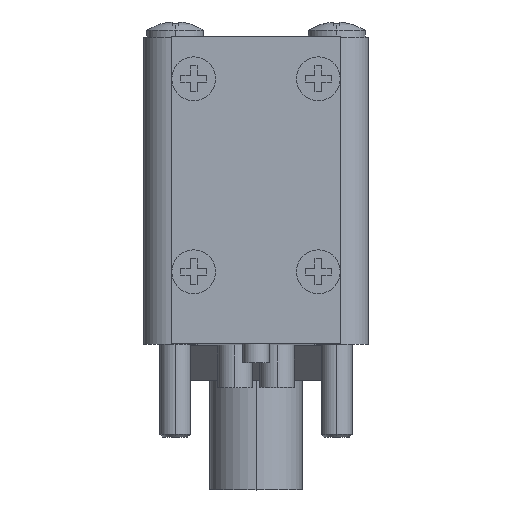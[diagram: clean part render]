
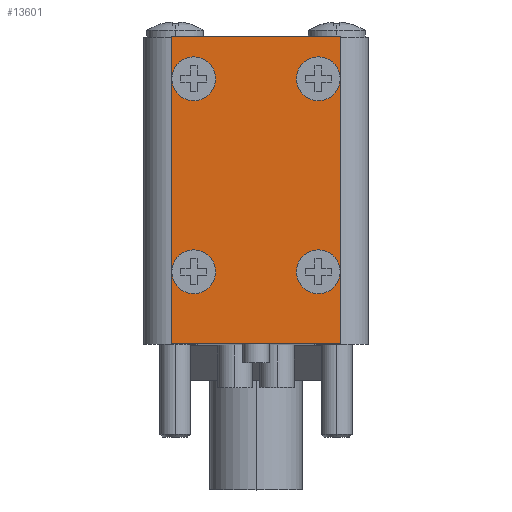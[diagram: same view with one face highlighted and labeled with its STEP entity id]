
A CAD part, top view. The second image highlights one B-rep face of the part: STEP entity #13601.
In plain terms, the highlighted planar face has unit normal (0, 0, 1).
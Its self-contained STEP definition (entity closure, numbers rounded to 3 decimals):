
#4471=DIRECTION('',(1.,0.,0.));
#4472=VECTOR('',#4471,19.3);
#4473=CARTESIAN_POINT('',(-9.65,17.,60.55));
#4474=LINE('',#4473,#4472);
#4478=DIRECTION('',(0.,-1.,0.));
#4479=VECTOR('',#4478,35.);
#4480=CARTESIAN_POINT('',(-9.65,17.,60.55));
#4481=LINE('',#4480,#4479);
#4485=DIRECTION('',(0.,1.,0.));
#4486=VECTOR('',#4485,35.);
#4487=CARTESIAN_POINT('',(9.65,-18.,60.55));
#4488=LINE('',#4487,#4486);
#4492=DIRECTION('',(1.,0.,0.));
#4493=VECTOR('',#4492,19.3);
#4494=CARTESIAN_POINT('',(-9.65,-18.,60.55));
#4495=LINE('',#4494,#4493);
#4499=CARTESIAN_POINT('',(-7.1,12.15,60.55));
#4500=DIRECTION('',(0.,0.,1.));
#4501=DIRECTION('',(1.,0.,0.));
#4502=AXIS2_PLACEMENT_3D('',#4499,#4500,#4501);
#4507=CARTESIAN_POINT('',(-7.1,12.15,60.55));
#4508=DIRECTION('',(0.,0.,1.));
#4509=DIRECTION('',(-1.,0.,0.));
#4510=AXIS2_PLACEMENT_3D('',#4507,#4508,#4509);
#4515=CARTESIAN_POINT('',(7.1,12.15,60.55));
#4516=DIRECTION('',(0.,0.,1.));
#4517=DIRECTION('',(1.,0.,0.));
#4518=AXIS2_PLACEMENT_3D('',#4515,#4516,#4517);
#4523=CARTESIAN_POINT('',(7.1,12.15,60.55));
#4524=DIRECTION('',(0.,0.,1.));
#4525=DIRECTION('',(-1.,0.,0.));
#4526=AXIS2_PLACEMENT_3D('',#4523,#4524,#4525);
#4531=CARTESIAN_POINT('',(-7.1,-9.85,60.55));
#4532=DIRECTION('',(0.,0.,1.));
#4533=DIRECTION('',(1.,0.,0.));
#4534=AXIS2_PLACEMENT_3D('',#4531,#4532,#4533);
#4539=CARTESIAN_POINT('',(-7.1,-9.85,60.55));
#4540=DIRECTION('',(0.,0.,1.));
#4541=DIRECTION('',(-1.,0.,0.));
#4542=AXIS2_PLACEMENT_3D('',#4539,#4540,#4541);
#4547=CARTESIAN_POINT('',(7.1,-9.85,60.55));
#4548=DIRECTION('',(0.,0.,1.));
#4549=DIRECTION('',(1.,0.,0.));
#4550=AXIS2_PLACEMENT_3D('',#4547,#4548,#4549);
#4555=CARTESIAN_POINT('',(7.1,-9.85,60.55));
#4556=DIRECTION('',(0.,0.,1.));
#4557=DIRECTION('',(-1.,0.,0.));
#4558=AXIS2_PLACEMENT_3D('',#4555,#4556,#4557);
#6839=CARTESIAN_POINT('',(-9.65,17.,60.55));
#6840=VERTEX_POINT('',#6839);
#6841=CARTESIAN_POINT('',(-9.65,-18.,60.55));
#6842=VERTEX_POINT('',#6841);
#6879=CARTESIAN_POINT('',(9.65,-18.,60.55));
#6880=VERTEX_POINT('',#6879);
#6881=CARTESIAN_POINT('',(9.65,17.,60.55));
#6882=VERTEX_POINT('',#6881);
#7683=CARTESIAN_POINT('',(-4.6,12.15,60.55));
#7684=CARTESIAN_POINT('',(-9.6,12.15,60.55));
#7685=VERTEX_POINT('',#7683);
#7686=VERTEX_POINT('',#7684);
#7687=CARTESIAN_POINT('',(9.6,12.15,60.55));
#7688=CARTESIAN_POINT('',(4.6,12.15,60.55));
#7689=VERTEX_POINT('',#7687);
#7690=VERTEX_POINT('',#7688);
#7691=CARTESIAN_POINT('',(-4.6,-9.85,60.55));
#7692=CARTESIAN_POINT('',(-9.6,-9.85,60.55));
#7693=VERTEX_POINT('',#7691);
#7694=VERTEX_POINT('',#7692);
#7695=CARTESIAN_POINT('',(9.6,-9.85,60.55));
#7696=CARTESIAN_POINT('',(4.6,-9.85,60.55));
#7697=VERTEX_POINT('',#7695);
#7698=VERTEX_POINT('',#7696);
#13566=CARTESIAN_POINT('',(-9.65,17.,60.55));
#13567=DIRECTION('',(0.,0.,1.));
#13568=DIRECTION('',(1.,0.,0.));
#13569=AXIS2_PLACEMENT_3D('',#13566,#13567,#13568);
#13570=PLANE('',#13569);
#13571=ORIENTED_EDGE('',*,*,#13388,.F.);
#13572=ORIENTED_EDGE('',*,*,#13561,.T.);
#13573=ORIENTED_EDGE('',*,*,#13437,.F.);
#13574=ORIENTED_EDGE('',*,*,#8038,.F.);
#13575=EDGE_LOOP('',(#13571,#13572,#13573,#13574));
#13576=FACE_OUTER_BOUND('',#13575,.F.);
#13578=ORIENTED_EDGE('',*,*,#13577,.T.);
#13580=ORIENTED_EDGE('',*,*,#13579,.T.);
#13581=EDGE_LOOP('',(#13578,#13580));
#13582=FACE_BOUND('',#13581,.F.);
#13584=ORIENTED_EDGE('',*,*,#13583,.T.);
#13586=ORIENTED_EDGE('',*,*,#13585,.T.);
#13587=EDGE_LOOP('',(#13584,#13586));
#13588=FACE_BOUND('',#13587,.F.);
#13590=ORIENTED_EDGE('',*,*,#13589,.T.);
#13592=ORIENTED_EDGE('',*,*,#13591,.T.);
#13593=EDGE_LOOP('',(#13590,#13592));
#13594=FACE_BOUND('',#13593,.F.);
#13596=ORIENTED_EDGE('',*,*,#13595,.T.);
#13598=ORIENTED_EDGE('',*,*,#13597,.T.);
#13599=EDGE_LOOP('',(#13596,#13598));
#13600=FACE_BOUND('',#13599,.F.);
#13601=ADVANCED_FACE('',(#13576,#13582,#13588,#13594,#13600),#13570,.T.);
#4503=CIRCLE('',#4502,2.5);
#4511=CIRCLE('',#4510,2.5);
#4519=CIRCLE('',#4518,2.5);
#4527=CIRCLE('',#4526,2.5);
#4535=CIRCLE('',#4534,2.5);
#4543=CIRCLE('',#4542,2.5);
#4551=CIRCLE('',#4550,2.5);
#4559=CIRCLE('',#4558,2.5);
#8038=EDGE_CURVE('',#6842,#6880,#4495,.T.);
#13388=EDGE_CURVE('',#6840,#6842,#4481,.T.);
#13437=EDGE_CURVE('',#6880,#6882,#4488,.T.);
#13561=EDGE_CURVE('',#6840,#6882,#4474,.T.);
#13577=EDGE_CURVE('',#7685,#7686,#4503,.T.);
#13579=EDGE_CURVE('',#7686,#7685,#4511,.T.);
#13583=EDGE_CURVE('',#7689,#7690,#4519,.T.);
#13585=EDGE_CURVE('',#7690,#7689,#4527,.T.);
#13589=EDGE_CURVE('',#7693,#7694,#4535,.T.);
#13591=EDGE_CURVE('',#7694,#7693,#4543,.T.);
#13595=EDGE_CURVE('',#7697,#7698,#4551,.T.);
#13597=EDGE_CURVE('',#7698,#7697,#4559,.T.);
